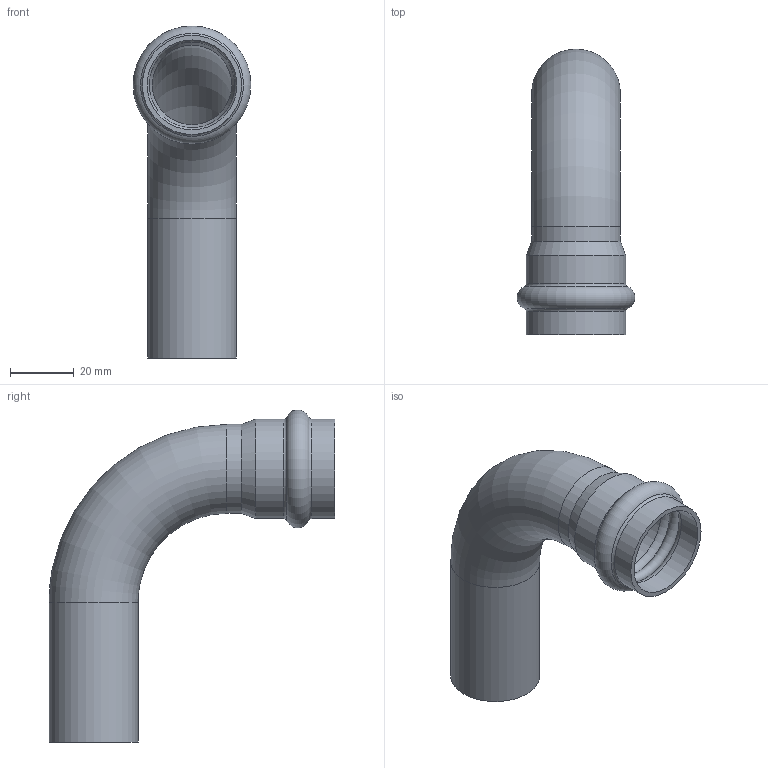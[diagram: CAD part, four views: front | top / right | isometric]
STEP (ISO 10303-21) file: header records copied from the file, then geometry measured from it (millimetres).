
FILE_DESCRIPTION(('STEP AP203'), '1');
FILE_NAME('VTi.950.I.002828', '', ('UNSPECIFIED'), ('UNSPECIFIED'), 'C3D Converter', 'C3D Toolkit', '');
FILE_SCHEMA(('CONFIG_CONTROL_DESIGN'));
Length unit declared in the file: millimetre
Products named in the file (1): ВР.302661.027.000 СБ
Bounding box: 37.09 x 90 x 104.54 mm (x, y, z)
Volume: 19604.4 mm3; surface area: 26136.2 mm2
Topology: 1 solids, 1 shells, 21 faces, 44 edges, 25 vertices
Faces by surface type: torus 9, cylinder 8, plane 2, cone 2
Full cylindrical faces by diameter (mm): 25.04 x2, 28 x2, 28.3 x2, 31.26 x2
Entity records: 508 total; most frequent: DIRECTION 94, CARTESIAN_POINT 72, ORIENTED_EDGE 50, AXIS2_PLACEMENT_3D 47, EDGE_LOOP 42, FACE_OUTER_BOUND 30, EDGE_CURVE 25, VERTEX_POINT 25
